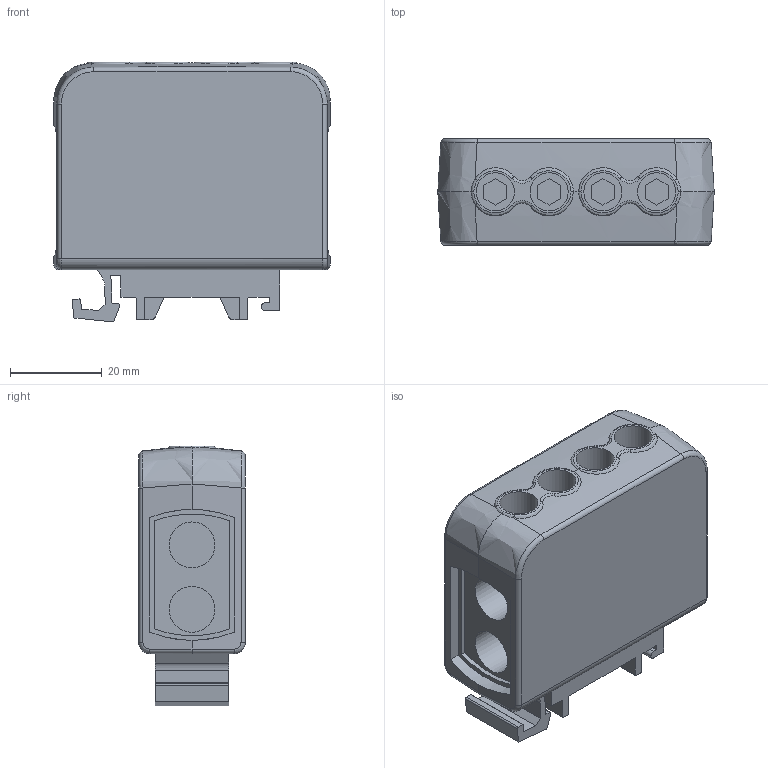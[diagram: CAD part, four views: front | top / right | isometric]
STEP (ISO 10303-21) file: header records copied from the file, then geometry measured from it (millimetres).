
FILE_DESCRIPTION(/* description */ ('Unknown'),/* implementation_level */ '2;1');
FILE_NAME(/* name */ 'utb 2x35',/* time_stamp */ '2021-04-01T13:12:11+02:00',/* author */ ('Unknown'),/* organization */ ('Unknown'),/* preprocessor_version */ 'ST-DEVELOPER v16.7',/* originating_system */ 'Solid Edge',/* authorisation */ 'Unknown');
FILE_SCHEMA (('AUTOMOTIVE_DESIGN {1 0 10303 214 3 1 1}'));
Length unit declared in the file: millimetre
Products named in the file (1): utb 2x35
Bounding box: 60.1 x 23.2 x 56.55 mm (x, y, z)
Volume: 56865.9 mm3; surface area: 14090.8 mm2
Topology: 1 solids, 1 shells, 166 faces, 421 edges, 272 vertices
Faces by surface type: plane 93, cylinder 41, bspline 28, torus 4
Full cylindrical faces by diameter (mm): 8.3 x4, 10 x4
Entity records: 5399 total; most frequent: CARTESIAN_POINT 1529, ORIENTED_EDGE 822, DIRECTION 744, EDGE_CURVE 411, VERTEX_POINT 270, LINE 248, VECTOR 248, AXIS2_PLACEMENT_3D 248
